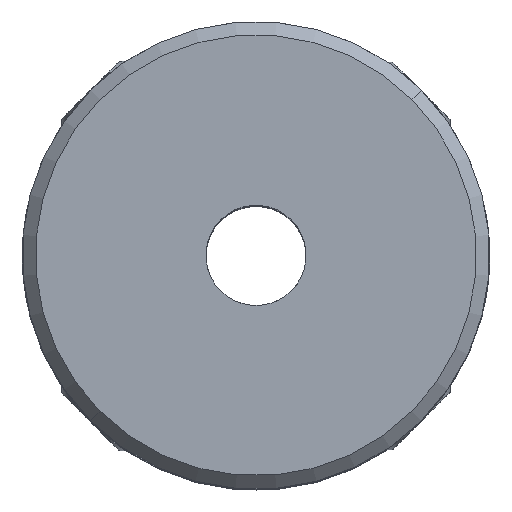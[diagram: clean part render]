
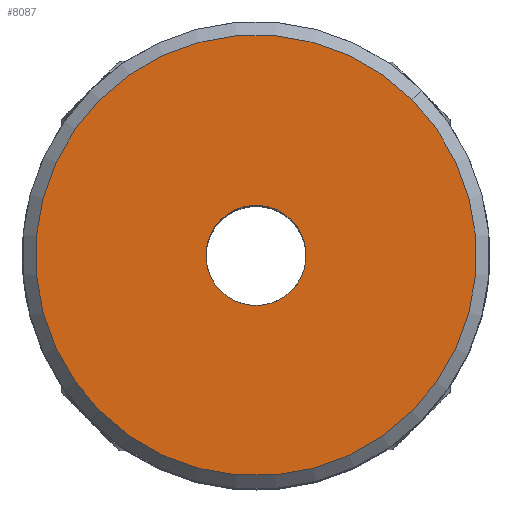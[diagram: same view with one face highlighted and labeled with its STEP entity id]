
A CAD part, top view. The second image highlights one B-rep face of the part: STEP entity #8087.
In plain terms, the highlighted planar face has unit normal (0, 0, 1).
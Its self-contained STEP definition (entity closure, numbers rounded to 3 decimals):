
#311 = CARTESIAN_POINT ( 'NONE',  ( 0., 0., 11. ) ) ;
#509 = CARTESIAN_POINT ( 'NONE',  ( 1.061, 1.061, 11. ) ) ;
#1867 = DIRECTION ( 'NONE',  ( 0., 0., -1. ) ) ;
#1951 = ORIENTED_EDGE ( 'NONE', *, *, #5987, .T. ) ;
#2126 = CIRCLE ( 'NONE', #8695, 1.5 ) ;
#2154 = VERTEX_POINT ( 'NONE', #5079 ) ;
#2637 = EDGE_CURVE ( 'NONE', #6264, #5545, #2126, .T. ) ;
#3090 = AXIS2_PLACEMENT_3D ( 'NONE', #311, #1867, #5187 ) ;
#3229 = CARTESIAN_POINT ( 'NONE',  ( 0., 0., 11. ) ) ;
#3517 = ORIENTED_EDGE ( 'NONE', *, *, #9578, .T. ) ;
#4312 = CIRCLE ( 'NONE', #10692, 6.6 ) ;
#4453 = CARTESIAN_POINT ( 'NONE',  ( -4.667, -4.667, 11. ) ) ;
#4761 = DIRECTION ( 'NONE',  ( -0.707, -0.707, 0. ) ) ;
#5079 = CARTESIAN_POINT ( 'NONE',  ( 4.667, 4.667, 11. ) ) ;
#5187 = DIRECTION ( 'NONE',  ( -0.707, -0.707, 0. ) ) ;
#5447 = EDGE_CURVE ( 'NONE', #5545, #6264, #5914, .T. ) ;
#5545 = VERTEX_POINT ( 'NONE', #509 ) ;
#5567 = CIRCLE ( 'NONE', #7965, 6.6 ) ;
#5914 = CIRCLE ( 'NONE', #3090, 1.5 ) ;
#5970 = CARTESIAN_POINT ( 'NONE',  ( -1.061, -1.061, 11. ) ) ;
#5987 = EDGE_CURVE ( 'NONE', #8933, #2154, #4312, .T. ) ;
#6264 = VERTEX_POINT ( 'NONE', #5970 ) ;
#6512 = DIRECTION ( 'NONE',  ( -0.707, -0.707, 0. ) ) ;
#6789 = ORIENTED_EDGE ( 'NONE', *, *, #5447, .T. ) ;
#7006 = CARTESIAN_POINT ( 'NONE',  ( 0., 0., 11. ) ) ;
#7285 = DIRECTION ( 'NONE',  ( 0., 0., 1. ) ) ;
#7330 = DIRECTION ( 'NONE',  ( -0.707, -0.707, 0. ) ) ;
#7432 = DIRECTION ( 'NONE',  ( 0., 0., -1. ) ) ;
#7965 = AXIS2_PLACEMENT_3D ( 'NONE', #9856, #7285, #7330 ) ;
#8087 = ADVANCED_FACE ( 'NONE', ( #8088, #9780 ), #8167, .F. ) ;
#8088 = FACE_OUTER_BOUND ( 'NONE', #9287, .T. ) ;
#8167 = PLANE ( 'NONE',  #9991 ) ;
#8353 = EDGE_LOOP ( 'NONE', ( #9886, #6789 ) ) ;
#8695 = AXIS2_PLACEMENT_3D ( 'NONE', #7006, #9774, #10119 ) ;
#8933 = VERTEX_POINT ( 'NONE', #4453 ) ;
#9287 = EDGE_LOOP ( 'NONE', ( #1951, #3517 ) ) ;
#9578 = EDGE_CURVE ( 'NONE', #2154, #8933, #5567, .T. ) ;
#9765 = DIRECTION ( 'NONE',  ( 0., 0., 1. ) ) ;
#9774 = DIRECTION ( 'NONE',  ( 0., 0., -1. ) ) ;
#9780 = FACE_BOUND ( 'NONE', #8353, .T. ) ;
#9856 = CARTESIAN_POINT ( 'NONE',  ( 0., 0., 11. ) ) ;
#9886 = ORIENTED_EDGE ( 'NONE', *, *, #2637, .T. ) ;
#9991 = AXIS2_PLACEMENT_3D ( 'NONE', #3229, #7432, #6512 ) ;
#10119 = DIRECTION ( 'NONE',  ( -0.707, -0.707, 0. ) ) ;
#10675 = CARTESIAN_POINT ( 'NONE',  ( 0., 0., 11. ) ) ;
#10692 = AXIS2_PLACEMENT_3D ( 'NONE', #10675, #9765, #4761 ) ;
